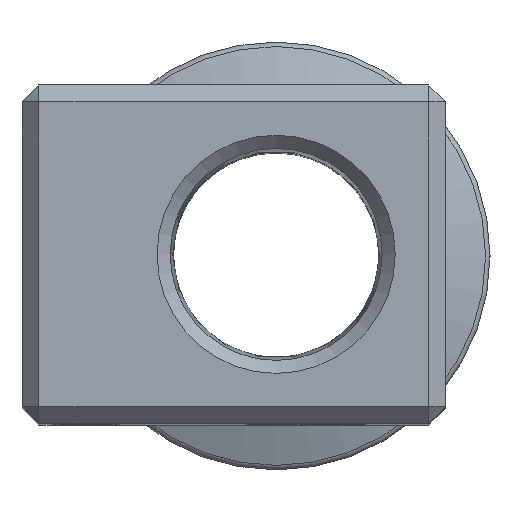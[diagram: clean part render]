
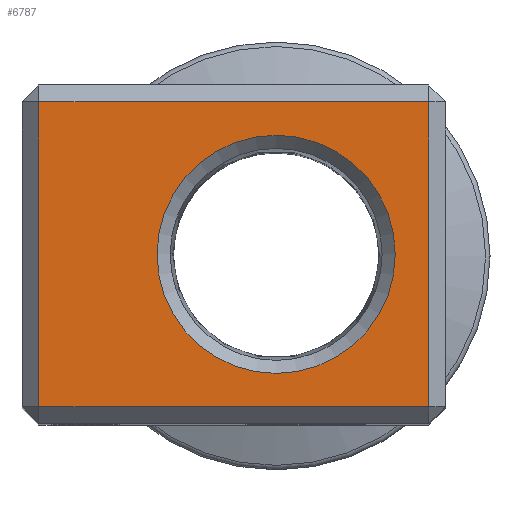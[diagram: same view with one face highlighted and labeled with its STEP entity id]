
A CAD part, top view. The second image highlights one B-rep face of the part: STEP entity #6787.
In plain terms, the highlighted planar face has unit normal (0, 0, 1).
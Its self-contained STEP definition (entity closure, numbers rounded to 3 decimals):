
#512=LINE('',#8004,#867);
#520=LINE('',#8020,#875);
#524=LINE('',#8027,#879);
#537=LINE('',#8049,#892);
#867=VECTOR('',#7217,1000.);
#875=VECTOR('',#7233,1000.);
#879=VECTOR('',#7239,1000.);
#892=VECTOR('',#7264,1000.);
#1233=PLANE('',#7007);
#1507=ORIENTED_EDGE('',*,*,#3182,.F.);
#1508=ORIENTED_EDGE('',*,*,#3133,.T.);
#1509=ORIENTED_EDGE('',*,*,#3141,.T.);
#1510=ORIENTED_EDGE('',*,*,#3158,.T.);
#1511=ORIENTED_EDGE('',*,*,#3145,.T.);
#3133=EDGE_CURVE('',#3997,#4000,#512,.T.);
#3141=EDGE_CURVE('',#4000,#4004,#520,.T.);
#3145=EDGE_CURVE('',#4005,#3997,#524,.T.);
#3158=EDGE_CURVE('',#4004,#4005,#537,.T.);
#3182=EDGE_CURVE('',#4029,#4029,#4844,.T.);
#3997=VERTEX_POINT('',#7998);
#4000=VERTEX_POINT('',#8003);
#4004=VERTEX_POINT('',#8019);
#4005=VERTEX_POINT('',#8024);
#4029=VERTEX_POINT('',#8105);
#4844=CIRCLE('',#6987,14.059);
#4941=EDGE_LOOP('',(#1507));
#4942=EDGE_LOOP('',(#1508,#1509,#1510,#1511));
#5267=FACE_BOUND('',#4941,.T.);
#5268=FACE_BOUND('',#4942,.T.);
#6787=ADVANCED_FACE('',(#5267,#5268),#1233,.T.);
#6987=AXIS2_PLACEMENT_3D('',#8104,#7330,#7331);
#7007=AXIS2_PLACEMENT_3D('',#8133,#7370,#7371);
#7217=DIRECTION('',(-1.,0.,0.));
#7233=DIRECTION('',(0.,-1.,0.));
#7239=DIRECTION('',(0.,1.,0.));
#7264=DIRECTION('',(1.,0.,0.));
#7330=DIRECTION('',(0.,0.,1.));
#7331=DIRECTION('',(1.,0.,0.));
#7370=DIRECTION('',(0.,0.,1.));
#7371=DIRECTION('',(1.,0.,0.));
#7998=CARTESIAN_POINT('',(48.,38.,0.));
#8003=CARTESIAN_POINT('',(2.,38.,0.));
#8004=CARTESIAN_POINT('',(0.,38.,0.));
#8019=CARTESIAN_POINT('',(2.,2.,0.));
#8020=CARTESIAN_POINT('',(2.,0.,0.));
#8024=CARTESIAN_POINT('',(48.,2.,0.));
#8027=CARTESIAN_POINT('',(48.,0.,0.));
#8049=CARTESIAN_POINT('',(0.,2.,0.));
#8104=CARTESIAN_POINT('',(30.,20.,0.));
#8105=CARTESIAN_POINT('',(44.059,20.,0.));
#8133=CARTESIAN_POINT('',(0.,0.,0.));
